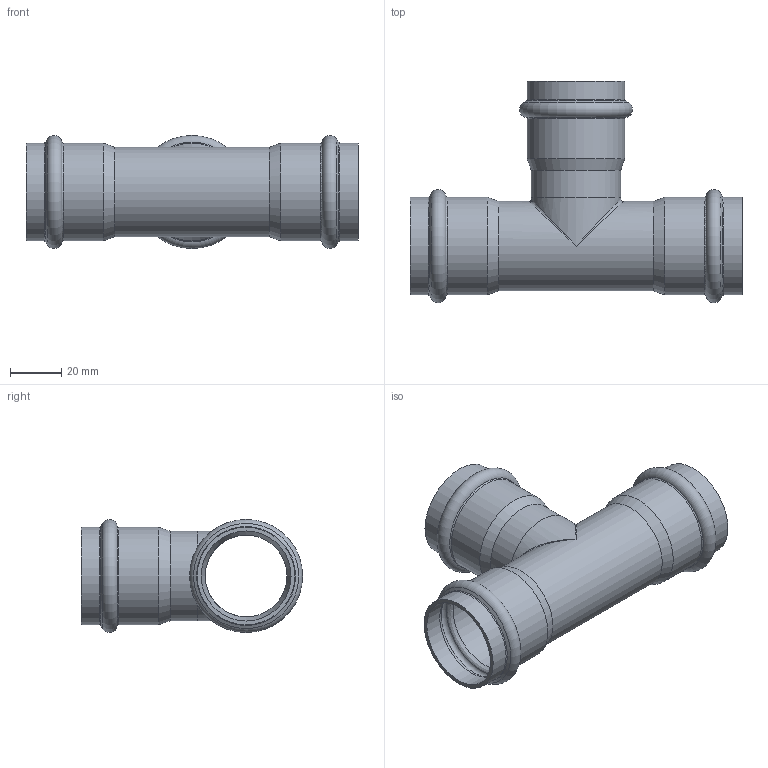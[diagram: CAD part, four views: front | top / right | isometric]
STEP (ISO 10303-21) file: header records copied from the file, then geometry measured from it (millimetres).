
FILE_DESCRIPTION((''),'2;1');
FILE_NAME('G:\Technics\CAD\Bauteile\035\6913035(2).stp','2008-03-03T15:33:31',('herberg'),(''),'Autodesk Inventor 2008','Autodesk Inventor 2008','');
FILE_SCHEMA(('AUTOMOTIVE_DESIGN { 1 0 10303 214 1 1 1 1 }'));
Length unit declared in the file: millimetre
Products named in the file (3): 6913035(2); LM_6913035(2); HM_6913035(2)
Assembly tree (2 placements, depth 2):
  6913035(2)
    LM_6913035(2)
    HM_6913035(2)
Bounding box: 130 x 86.65 x 44.29 mm (x, y, z)
Volume: 30896.6 mm3; surface area: 42022.8 mm2
Topology: 2 solids, 2 shells, 57 faces, 127 edges, 66 vertices
Faces by surface type: cylinder 18, bspline 16, cone 12, torus 6, plane 5
Full cylindrical faces by diameter (mm): 32 x3, 35 x3, 35.25 x6, 38.25 x6
Entity records: 2335 total; most frequent: CARTESIAN_POINT 1314, DIRECTION 212, ORIENTED_EDGE 120, EDGE_LOOP 112, AXIS2_PLACEMENT_3D 106, EDGE_CURVE 60, FACE_OUTER_BOUND 57, ADVANCED_FACE 57
